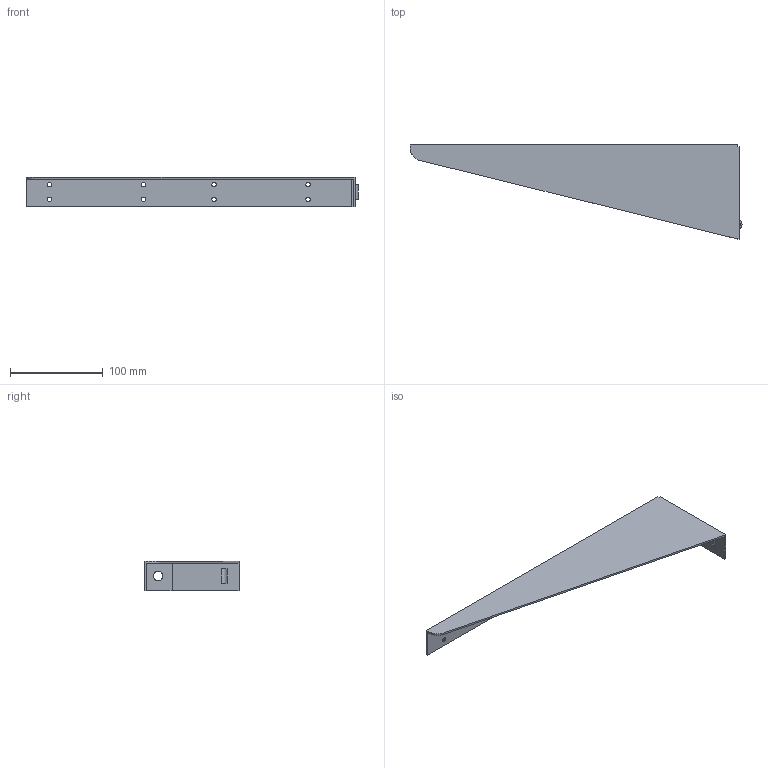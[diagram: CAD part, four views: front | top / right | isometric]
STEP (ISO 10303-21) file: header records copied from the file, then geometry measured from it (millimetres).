
FILE_DESCRIPTION(('TurboCAD Mac Pro'),'Build 980');
FILE_NAME('A2495R.stp',' ',(''),(''),'ACIS Interop','IMSI','TurboCAD Mac Pro BY IMSI, INCORPORATED');
FILE_SCHEMA(('automotive_design'));
Length unit declared in the file: inch
Products named in the file (1): 1
Bounding box: 358.77 x 101.6 x 31.75 mm (x, y, z)
Volume: 66122.8 mm3; surface area: 70155.6 mm2
Topology: 1 solids, 1 shells, 62 faces, 177 edges, 116 vertices
Faces by surface type: bspline 42, plane 20
Entity records: 2992 total; most frequent: CARTESIAN_POINT 910, ORIENTED_EDGE 354, EDGE_CURVE 177, DIRECTION 143, VERTEX_POINT 116, STYLED_ITEM 100, PRESENTATION_STYLE_ASSIGNMENT 100, COLOUR_RGB 100
